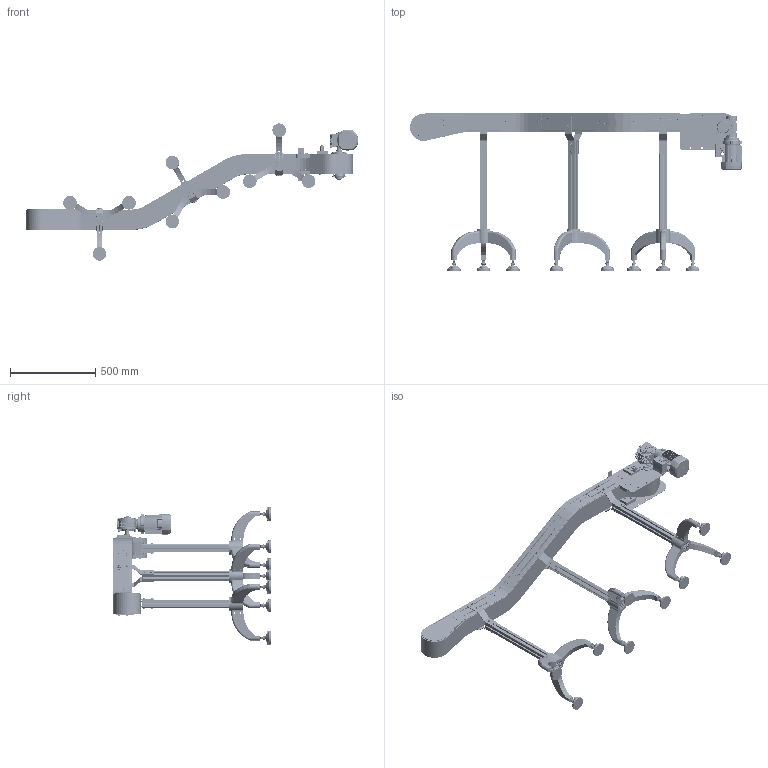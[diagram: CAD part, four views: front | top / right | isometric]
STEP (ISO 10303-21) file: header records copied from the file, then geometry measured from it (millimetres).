
FILE_DESCRIPTION (( 'STEP AP203' ), '1' );
FILE_NAME ('NASTRO_CATENA.step', '2026-04-21T10:26:11', ( 'Utente Windows' ), ( '' ), 'SwSTEP 2.0', 'SolidWorks 2024', '' );
FILE_SCHEMA (( 'CONFIG_CONTROL_DESIGN' ));
Length unit declared in the file: millimetre
Products named in the file (70): VITI TE UNI 5739 INOX_M6x30 UNI 5739 INOX; VITI TSEI UNI 5933 INOX_0620UNI5933A2; 2000.450.101-1; CHIAVETTE_A 8x7x50 UNI 6604-69; CATENA_SSX; 2000.450.003; VITI TSEI UNI 5933 INOX_0820UNI5933A2; VITI TSEI UNI 5933 INOX_0410UNI5933A2; 084.302.016; 2000.001.207-2; TRIPIEDE_GAMBE_KP325; VITI TE UNI 5739 INOX_M8x20 UNI 5739 INOX; 2000.882.750; K450_6_Default<A macchina>; 663151_NS880T12R25; 084.808.004; FLANGIA_GAMBE_KP450; 084.802.027; 2000.001.402; GAMBE_KP325_Default<A macchina>; 2000.450.103-2; K450_DIR_49_P_DX_MOTORE A DESTRA; CHIAVETTE_A 8x7x70 UNI 6604-69; VITI TE UNI 5739 INOX_M6x20 UNI 5739 INOX; 25UNI7435; NASTRO_CATENA; 2000.450.104-2; 084.301.000 VITI ALUSIC_084.301.002; VITI TCEI UNI 5931 INOX_M6x30 UNI 5931 INOX; K450_30°_S_P; DADI ESAGONALI AUTOBLOCCANTI UNI 7473 INOX_M6 UNI 7473 INOX; 2000.001.011; 2000.001.206-2; RONDELLE FASCIA LARGA UNI 6593 INOX_8.4x32 UNI 6593 INOX; 2000.450.201-1S; RONDELLE FASCIA LARGA UNI 6593 INOX_8.4x24 UNI 6593 INOX; VITI TE UNI 5739 INOX_M6x12 UNI 5739 INOX; 084.302.000 DADI ALUSIC 13x13-1_084.302.004; 2000.450.002; 2000.001.003-3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
Assembly tree (235 placements, depth 3):
  NASTRO_CATENA
    K450_1_Default<A macchina>
    K450_2_Default<A macchina>
    K450_6_Default<A macchina>
    K450_DIR_49_P_DX_MOTORE A DESTRA
      084.802.027
      2000.001.006-2  x2
      2000.001.001  x2
      2000.001.004-3
      2000.001.003-3
      2000.001.011
      2000.450.101-1
      2000.450.001  x2
      2000.450.103-2
      2000.450.104-2
      2000.450.002  x2
      084.808.004
      PU008.012.025N
      CHIAVETTE_A 8x7x70 UNI 6604-69
      CHIAVETTE_A 8x7x50 UNI 6604-69
      SBPF205  x2
      663151_NS880T12R25
      VITI TSEI UNI 5933 INOX_0410UNI5933A2  x8
      GRANI A PUNTA CONICA UNI 5927_M8x16 UNI 5927  x8
      VITI TCEI UNI 5931 INOX_M6x30 UNI 5931 INOX  x2
      VITI TE UNI 5739 INOX_M8x20 UNI 5739 INOX
      RONDELLE FASCIA LARGA UNI 6593 INOX_8.4x32 UNI 6593 INOX
      GRANI A PUNTA PIATTA UNI 5923_M8x20 UNI 5923
      RONDELLE FASCIA LARGA UNI 6593 INOX_8.4x24 UNI 6593 INOX
      VITI TE UNI 5739 INOX_M8x16 UNI 5739 INOX  x7
      DADI ESAGONALI AUTOBLOCCANTI UNI 7473 INOX_M6 UNI 7473 INOX  x4
      084.312.006  x6
      VITI TE UNI 5739 INOX_M6x20 UNI 5739 INOX  x6
      VITI TE UNI 5739 INOX_M6x30 UNI 5739 INOX  x4
      VITI TE UNI 5739 INOX_M6x12 UNI 5739 INOX  x4
    K450_30°_D_P
      2000.001.402  x4
      2000.450.005_Default<A macchina>  x2
      2000.450.436_2000.1200.490  x2
      2000.450.431
      2000.450.432
      VITI TSEI UNI 5933 INOX_0620UNI5933A2  x8
      VITI TSEI UNI 5933 INOX_0820UNI5933A2  x8
      084.302.000 DADI ALUSIC 13x13-1_084.302.008  x8
    K450_30°_S_P
      2000.001.402  x4
      2000.450.005_Default<A macchina>  x2
      2000.450.436_2000.1200.490  x2
      2000.450.431
      2000.450.432
      VITI TSEI UNI 5933 INOX_0620UNI5933A2  x8
      VITI TSEI UNI 5933 INOX_0820UNI5933A2  x8
      084.302.000 DADI ALUSIC 13x13-1_084.302.008  x8
    K450_R_P
      2000.001.206-2
      2000.001.207-2
      2000.450.201-1S
      2000.001.208-1
      2000.001.209-1
      2000.450.003  x2
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Bounding box: 1943.1 x 920.77 x 803.09 mm (x, y, z)
Volume: 21606909.5 mm3; surface area: 7508271.8 mm2
Topology: 339 solids, 348 shells, 13617 faces, 32765 edges, 19997 vertices
Faces by surface type: plane 5167, cylinder 4483, cone 2713, bspline 654, torus 600
Entity records: 190427 total; most frequent: CARTESIAN_POINT 53900, DIRECTION 26551, ORIENTED_EDGE 25860, EDGE_CURVE 12941, AXIS2_PLACEMENT_3D 9747, VERTEX_POINT 8047, LINE 7057, VECTOR 7057
